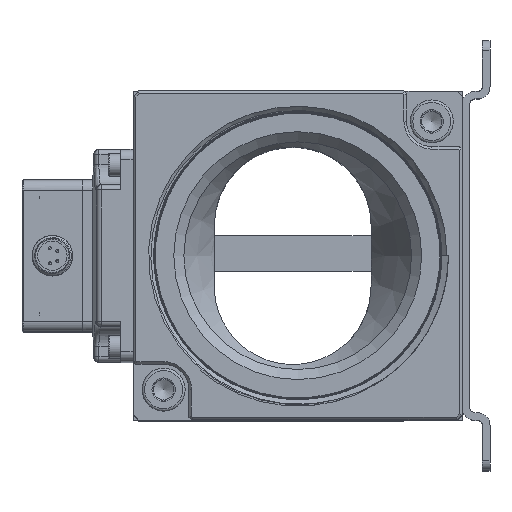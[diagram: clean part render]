
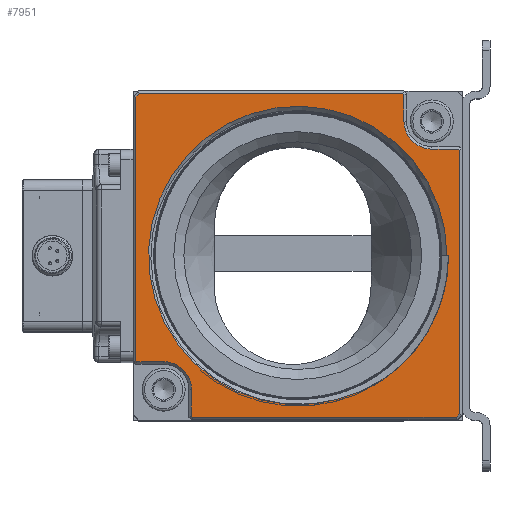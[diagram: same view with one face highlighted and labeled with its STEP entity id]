
A CAD part, top view. The second image highlights one B-rep face of the part: STEP entity #7951.
In plain terms, the highlighted planar face has unit normal (0, 0, 1).
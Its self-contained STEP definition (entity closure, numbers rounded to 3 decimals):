
#767=PLANE('',#28661);
#1755=FACE_BOUND('',#11035,.T.);
#1756=FACE_BOUND('',#11036,.T.);
#2702=CIRCLE('',#28657,5.5);
#2703=CIRCLE('',#28658,5.5);
#2704=CIRCLE('',#28659,29.807);
#2705=CIRCLE('',#28660,29.486);
#3647=LINE('',#41712,#5740);
#3648=LINE('',#41715,#5741);
#3649=LINE('',#41717,#5742);
#3650=LINE('',#41719,#5743);
#3651=LINE('',#41721,#5744);
#3652=LINE('',#41725,#5745);
#3653=LINE('',#41727,#5746);
#3654=LINE('',#41729,#5747);
#3655=LINE('',#41731,#5748);
#3656=LINE('',#41733,#5749);
#3657=LINE('',#41735,#5750);
#3658=LINE('',#41737,#5751);
#3659=LINE('',#41741,#5752);
#3660=LINE('',#41743,#5753);
#3661=LINE('',#41744,#5754);
#5740=VECTOR('',#31235,1.);
#5741=VECTOR('',#31236,1.);
#5742=VECTOR('',#31237,1.);
#5743=VECTOR('',#31238,1.);
#5744=VECTOR('',#31239,1.);
#5745=VECTOR('',#31242,1.);
#5746=VECTOR('',#31243,1.);
#5747=VECTOR('',#31244,1.);
#5748=VECTOR('',#31245,1.);
#5749=VECTOR('',#31246,1.);
#5750=VECTOR('',#31247,1.);
#5751=VECTOR('',#31248,1.);
#5752=VECTOR('',#31251,1.);
#5753=VECTOR('',#31252,1.);
#5754=VECTOR('',#31253,1.);
#7951=ADVANCED_FACE('',(#1755,#1756),#767,.F.);
#11035=EDGE_LOOP('',(#13184,#13185,#13186,#13187,#13188,#13189,#13190,#13191,
#13192,#13193,#13194,#13195,#13196,#13197,#13198,#13199));
#11036=EDGE_LOOP('',(#13200,#13201,#13202,#13203));
#13184=ORIENTED_EDGE('',*,*,#23735,.T.);
#13185=ORIENTED_EDGE('',*,*,#23736,.T.);
#13186=ORIENTED_EDGE('',*,*,#23737,.T.);
#13187=ORIENTED_EDGE('',*,*,#23738,.T.);
#13188=ORIENTED_EDGE('',*,*,#23739,.T.);
#13189=ORIENTED_EDGE('',*,*,#23740,.T.);
#13190=ORIENTED_EDGE('',*,*,#23741,.T.);
#13191=ORIENTED_EDGE('',*,*,#23742,.T.);
#13192=ORIENTED_EDGE('',*,*,#23743,.T.);
#13193=ORIENTED_EDGE('',*,*,#23744,.T.);
#13194=ORIENTED_EDGE('',*,*,#23745,.T.);
#13195=ORIENTED_EDGE('',*,*,#23746,.T.);
#13196=ORIENTED_EDGE('',*,*,#23747,.T.);
#13197=ORIENTED_EDGE('',*,*,#23748,.T.);
#13198=ORIENTED_EDGE('',*,*,#23749,.T.);
#13199=ORIENTED_EDGE('',*,*,#23750,.T.);
#13200=ORIENTED_EDGE('',*,*,#23751,.F.);
#13201=ORIENTED_EDGE('',*,*,#23752,.T.);
#13202=ORIENTED_EDGE('',*,*,#23731,.T.);
#13203=ORIENTED_EDGE('',*,*,#23753,.T.);
#21078=VERTEX_POINT('',#40736);
#21079=VERTEX_POINT('',#40741);
#21081=VERTEX_POINT('',#41713);
#21082=VERTEX_POINT('',#41714);
#21083=VERTEX_POINT('',#41716);
#21084=VERTEX_POINT('',#41718);
#21085=VERTEX_POINT('',#41720);
#21086=VERTEX_POINT('',#41722);
#21087=VERTEX_POINT('',#41724);
#21088=VERTEX_POINT('',#41726);
#21089=VERTEX_POINT('',#41728);
#21090=VERTEX_POINT('',#41730);
#21091=VERTEX_POINT('',#41732);
#21092=VERTEX_POINT('',#41734);
#21093=VERTEX_POINT('',#41736);
#21094=VERTEX_POINT('',#41738);
#21095=VERTEX_POINT('',#41740);
#21096=VERTEX_POINT('',#41742);
#21097=VERTEX_POINT('',#41745);
#21098=VERTEX_POINT('',#41746);
#23731=EDGE_CURVE('',#21079,#21078,#27682,.T.);
#23735=EDGE_CURVE('',#21081,#21082,#3647,.T.);
#23736=EDGE_CURVE('',#21082,#21083,#3648,.T.);
#23737=EDGE_CURVE('',#21083,#21084,#3649,.T.);
#23738=EDGE_CURVE('',#21084,#21085,#3650,.T.);
#23739=EDGE_CURVE('',#21085,#21086,#3651,.T.);
#23740=EDGE_CURVE('',#21086,#21087,#2702,.T.);
#23741=EDGE_CURVE('',#21087,#21088,#3652,.T.);
#23742=EDGE_CURVE('',#21088,#21089,#3653,.T.);
#23743=EDGE_CURVE('',#21089,#21090,#3654,.T.);
#23744=EDGE_CURVE('',#21090,#21091,#3655,.T.);
#23745=EDGE_CURVE('',#21091,#21092,#3656,.T.);
#23746=EDGE_CURVE('',#21092,#21093,#3657,.T.);
#23747=EDGE_CURVE('',#21093,#21094,#3658,.T.);
#23748=EDGE_CURVE('',#21094,#21095,#2703,.T.);
#23749=EDGE_CURVE('',#21095,#21096,#3659,.T.);
#23750=EDGE_CURVE('',#21096,#21081,#3660,.T.);
#23751=EDGE_CURVE('',#21097,#21098,#3661,.T.);
#23752=EDGE_CURVE('',#21097,#21079,#2704,.T.);
#23753=EDGE_CURVE('',#21078,#21098,#2705,.T.);
#27682=B_SPLINE_CURVE_WITH_KNOTS('',3,(#40737,#40738,#40739,#40740),
 .UNSPECIFIED.,.F.,.F.,(4,4),(0.,1.),.UNSPECIFIED.);
#28657=AXIS2_PLACEMENT_3D('',#41723,#31240,#31241);
#28658=AXIS2_PLACEMENT_3D('',#41739,#31249,#31250);
#28659=AXIS2_PLACEMENT_3D('',#41747,#31254,#31255);
#28660=AXIS2_PLACEMENT_3D('',#41748,#31256,#31257);
#28661=AXIS2_PLACEMENT_3D('',#41749,#31258,#31259);
#31235=DIRECTION('',(-1.,0.,0.));
#31236=DIRECTION('',(-0.707,-0.707,0.));
#31237=DIRECTION('',(0.,-1.,0.));
#31238=DIRECTION('',(0.707,-0.708,0.));
#31239=DIRECTION('',(1.,-0.002,0.));
#31240=DIRECTION('',(0.,0.,-1.));
#31241=DIRECTION('',(-1.,0.,0.));
#31242=DIRECTION('',(0.,-1.,0.));
#31243=DIRECTION('',(0.707,-0.707,0.));
#31244=DIRECTION('',(1.,0.,0.));
#31245=DIRECTION('',(0.707,0.707,0.));
#31246=DIRECTION('',(0.,1.,0.));
#31247=DIRECTION('',(-0.707,0.707,0.));
#31248=DIRECTION('',(-1.,0.,0.));
#31249=DIRECTION('',(0.,0.,-1.));
#31250=DIRECTION('',(-1.,0.,0.));
#31251=DIRECTION('',(0.,1.,0.));
#31252=DIRECTION('',(-0.707,0.707,0.));
#31253=DIRECTION('',(-1.,0.,0.));
#31254=DIRECTION('',(0.,0.,-1.));
#31255=DIRECTION('',(-1.,0.,0.));
#31256=DIRECTION('',(0.,0.,-1.));
#31257=DIRECTION('',(-1.,0.,0.));
#31258=DIRECTION('',(0.,0.,-1.));
#31259=DIRECTION('',(-1.,0.,0.));
#40736=CARTESIAN_POINT('',(37.288,-0.939,22.));
#40737=CARTESIAN_POINT('',(49.195,5.127,22.));
#40738=CARTESIAN_POINT('',(45.73,2.219,22.));
#40739=CARTESIAN_POINT('',(41.662,0.147,22.));
#40740=CARTESIAN_POINT('',(37.288,-0.939,22.));
#40741=CARTESIAN_POINT('',(49.195,5.127,22.));
#41712=CARTESIAN_POINT('',(-2.,59.5,22.));
#41713=CARTESIAN_POINT('',(50.293,59.5,22.));
#41714=CARTESIAN_POINT('',(-1.793,59.5,22.));
#41715=CARTESIAN_POINT('',(-2.646,58.646,22.));
#41716=CARTESIAN_POINT('',(-2.5,58.793,22.));
#41717=CARTESIAN_POINT('',(-2.5,6.509,22.));
#41718=CARTESIAN_POINT('',(-2.5,6.716,22.));
#41719=CARTESIAN_POINT('',(-2.146,6.362,22.));
#41720=CARTESIAN_POINT('',(-2.292,6.508,22.));
#41721=CARTESIAN_POINT('',(3.009,6.5,22.));
#41722=CARTESIAN_POINT('',(3.009,6.5,22.));
#41723=CARTESIAN_POINT('',(3.,1.,22.));
#41724=CARTESIAN_POINT('',(8.5,1.,22.));
#41725=CARTESIAN_POINT('',(8.5,-4.5,22.));
#41726=CARTESIAN_POINT('',(8.5,-4.293,22.));
#41727=CARTESIAN_POINT('',(8.854,-4.646,22.));
#41728=CARTESIAN_POINT('',(8.707,-4.5,22.));
#41729=CARTESIAN_POINT('',(61.,-4.5,22.));
#41730=CARTESIAN_POINT('',(60.793,-4.5,22.));
#41731=CARTESIAN_POINT('',(61.646,-3.646,22.));
#41732=CARTESIAN_POINT('',(61.5,-3.793,22.));
#41733=CARTESIAN_POINT('',(61.5,48.5,22.));
#41734=CARTESIAN_POINT('',(61.5,48.293,22.));
#41735=CARTESIAN_POINT('',(61.146,48.646,22.));
#41736=CARTESIAN_POINT('',(61.293,48.5,22.));
#41737=CARTESIAN_POINT('',(56.,48.5,22.));
#41738=CARTESIAN_POINT('',(56.,48.5,22.));
#41739=CARTESIAN_POINT('',(56.,54.,22.));
#41740=CARTESIAN_POINT('',(50.5,54.,22.));
#41741=CARTESIAN_POINT('',(50.5,59.5,22.));
#41742=CARTESIAN_POINT('',(50.5,59.293,22.));
#41743=CARTESIAN_POINT('',(50.146,59.646,22.));
#41744=CARTESIAN_POINT('',(29.5,27.5,22.));
#41745=CARTESIAN_POINT('',(59.307,27.5,22.));
#41746=CARTESIAN_POINT('',(58.986,27.5,22.));
#41747=CARTESIAN_POINT('',(29.5,27.5,22.));
#41748=CARTESIAN_POINT('',(29.5,27.5,22.));
#41749=CARTESIAN_POINT('',(29.5,27.5,22.));
